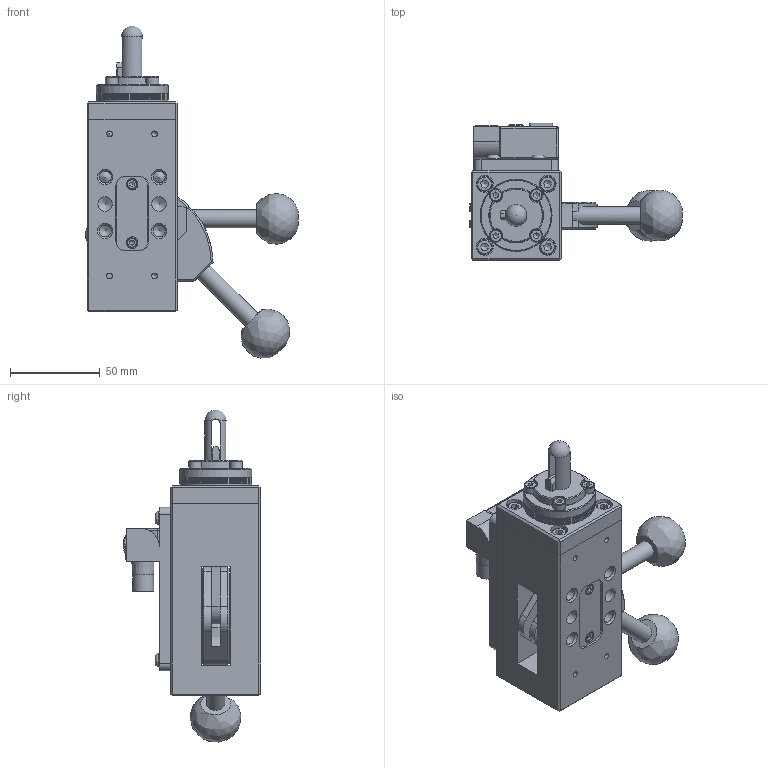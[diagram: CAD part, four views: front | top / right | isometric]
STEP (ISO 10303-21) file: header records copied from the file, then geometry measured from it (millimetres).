
FILE_DESCRIPTION(/* description */ (''),/* implementation_level */ '2;1');
FILE_NAME(/* name */ 'S:\Tom\INVENTOR FILES\AUTOMOTIVE\UNDERBODY CLAMPS\XPCB\SIMPLIFIED MODELS\STEP\XPCB-12-01-ES1-R.stp',/* time_stamp */ '2021-06-08T10:01:15+01:00',/* author */ ('RWilson'),/* organization */ (''),/* preprocessor_version */ 'ST-DEVELOPER v18.1',/* originating_system */ 'Autodesk Inventor 2021',/* authorisation */ '');
FILE_SCHEMA (('AUTOMOTIVE_DESIGN { 1 0 10303 214 3 1 1 }'));
Length unit declared in the file: millimetre
Products named in the file (10): XPCB-12-01-ES1-R; XPCB - 12MM CLAMPING RING & PIN; XPCB - BODY; XPCB - HANDLE; XPCB - HOOK; XPCB - TOP PLATE; XPCB - 1MM SHIM; XPCB - 0.5MM SHIM; XPCB - BLANKING COVER; XPCB - SWITCH ASSEMBLY
Assembly tree (13 placements, depth 2):
  XPCB-12-01-ES1-R
    XPCB - 12MM CLAMPING RING & PIN
    XPCB - BODY
    XPCB - HANDLE  x2
    XPCB - HOOK
    XPCB - TOP PLATE
    XPCB - 0.5MM SHIM  x2
    XPCB - 1MM SHIM  x3
    XPCB - BLANKING COVER
    XPCB - SWITCH ASSEMBLY
Bounding box: 118.37 x 76.31 x 184.64 mm (x, y, z)
Volume: 372123.6 mm3; surface area: 116912.8 mm2
Topology: 13 solids, 27 shells, 830 faces, 2143 edges, 1397 vertices
Faces by surface type: plane 384, cylinder 255, cone 123, torus 27, sphere 21, bspline 20
Full cylindrical faces by diameter (mm): 0.7 x8, 1.7 x1, 1.8 x2, 2 x1, 2.459 x6, 2.5 x3, 2.8 x2, 3 x4, 3.2 x2, 3.242 x8, 4 x8, 4.134 x1, 4.3 x2, 4.5 x4, 4.917 x3, 5 x4, 5.3 x1, 5.5 x2, 6 x3, 6.5 x2, 6.6 x3, 6.647 x12, 7 x4, 7.6 x4, 8 x6, 8.376 x2, 8.5 x5, 9 x3, 9.5 x4, 10 x5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
Entity records: 23985 total; most frequent: CARTESIAN_POINT 4890, DIRECTION 4100, ORIENTED_EDGE 3816, EDGE_CURVE 1908, AXIS2_PLACEMENT_3D 1587, VERTEX_POINT 1295, LINE 926, VECTOR 926
